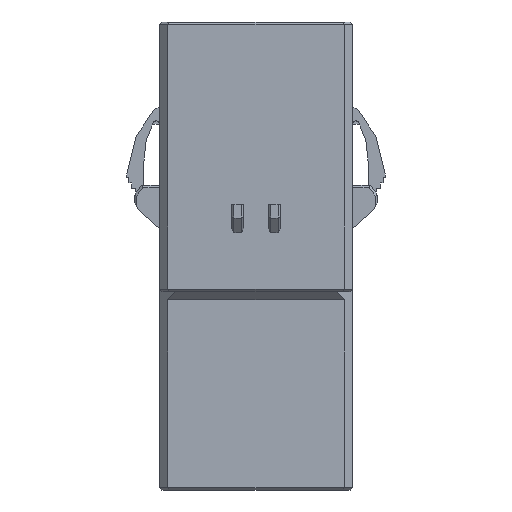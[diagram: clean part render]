
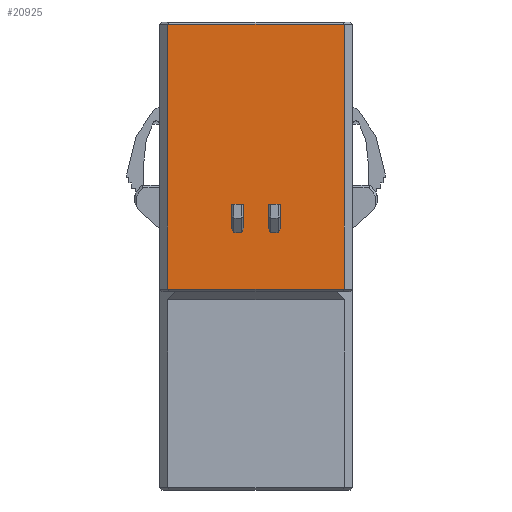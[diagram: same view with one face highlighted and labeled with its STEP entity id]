
A CAD part, front view. The second image highlights one B-rep face of the part: STEP entity #20925.
In plain terms, the highlighted planar face has unit normal (0, -1, 0).
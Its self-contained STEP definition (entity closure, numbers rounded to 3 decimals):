
#251 = VERTEX_POINT ( 'NONE', #8469 ) ;
#808 = PLANE ( 'NONE',  #29252 ) ;
#1296 = ORIENTED_EDGE ( 'NONE', *, *, #7343, .T. ) ;
#1436 = DIRECTION ( 'NONE',  ( -0.539, 0., -0.842 ) ) ;
#1515 = VECTOR ( 'NONE', #35412, 1000. ) ;
#2307 = DIRECTION ( 'NONE',  ( 1., 0., 0. ) ) ;
#2344 = VECTOR ( 'NONE', #32863, 1000. ) ;
#2346 = VERTEX_POINT ( 'NONE', #15642 ) ;
#2470 = CARTESIAN_POINT ( 'NONE',  ( -2.7, -8.75, -25.8 ) ) ;
#3080 = LINE ( 'NONE', #27881, #6177 ) ;
#3253 = CARTESIAN_POINT ( 'NONE',  ( -11.81, -8.75, -0.3 ) ) ;
#3319 = ORIENTED_EDGE ( 'NONE', *, *, #26035, .T. ) ;
#3447 = CARTESIAN_POINT ( 'NONE',  ( 3., -8.75, -22.3 ) ) ;
#3502 = DIRECTION ( 'NONE',  ( -1., 0., 0. ) ) ;
#3723 = CARTESIAN_POINT ( 'NONE',  ( -10.81, -8.75, -32. ) ) ;
#3821 = CARTESIAN_POINT ( 'NONE',  ( 10.81, -8.75, -32. ) ) ;
#4146 = CARTESIAN_POINT ( 'NONE',  ( -10.81, -8.75, -32.7 ) ) ;
#4344 = ORIENTED_EDGE ( 'NONE', *, *, #29403, .T. ) ;
#4378 = LINE ( 'NONE', #14769, #12740 ) ;
#4586 = VERTEX_POINT ( 'NONE', #30343 ) ;
#5008 = EDGE_CURVE ( 'NONE', #19779, #22646, #3080, .T. ) ;
#5034 = LINE ( 'NONE', #18397, #1515 ) ;
#5588 = VECTOR ( 'NONE', #21203, 1000. ) ;
#5621 = VERTEX_POINT ( 'NONE', #6732 ) ;
#6177 = VECTOR ( 'NONE', #30670, 1000. ) ;
#6259 = EDGE_CURVE ( 'NONE', #10961, #14250, #12717, .T. ) ;
#6732 = CARTESIAN_POINT ( 'NONE',  ( -1.8, -8.75, -25.8 ) ) ;
#7155 = VERTEX_POINT ( 'NONE', #31346 ) ;
#7343 = EDGE_CURVE ( 'NONE', #21123, #7595, #28828, .T. ) ;
#7405 = CARTESIAN_POINT ( 'NONE',  ( -3., -8.75, -22.3 ) ) ;
#7595 = VERTEX_POINT ( 'NONE', #35864 ) ;
#7865 = ORIENTED_EDGE ( 'NONE', *, *, #28690, .F. ) ;
#7888 = ORIENTED_EDGE ( 'NONE', *, *, #26256, .T. ) ;
#8007 = EDGE_CURVE ( 'NONE', #251, #7155, #20922, .T. ) ;
#8469 = CARTESIAN_POINT ( 'NONE',  ( -3., -8.75, -25.331 ) ) ;
#9399 = ORIENTED_EDGE ( 'NONE', *, *, #27073, .T. ) ;
#9413 = DIRECTION ( 'NONE',  ( 0., -1., 0. ) ) ;
#10086 = VERTEX_POINT ( 'NONE', #4146 ) ;
#10103 = CARTESIAN_POINT ( 'NONE',  ( 1.8, -8.75, -25.8 ) ) ;
#10122 = DIRECTION ( 'NONE',  ( 0., 0., 1. ) ) ;
#10178 = LINE ( 'NONE', #35268, #20700 ) ;
#10513 = ORIENTED_EDGE ( 'NONE', *, *, #16880, .T. ) ;
#10960 = VECTOR ( 'NONE', #32166, 1000. ) ;
#10961 = VERTEX_POINT ( 'NONE', #26406 ) ;
#11879 = EDGE_CURVE ( 'NONE', #28007, #15995, #20565, .T. ) ;
#12082 = CARTESIAN_POINT ( 'NONE',  ( 10.81, -8.75, -0.3 ) ) ;
#12187 = VECTOR ( 'NONE', #20883, 1000. ) ;
#12588 = CARTESIAN_POINT ( 'NONE',  ( 3., -8.75, -25.8 ) ) ;
#12717 = LINE ( 'NONE', #15018, #10960 ) ;
#12740 = VECTOR ( 'NONE', #31688, 1000. ) ;
#13201 = ORIENTED_EDGE ( 'NONE', *, *, #11879, .T. ) ;
#14250 = VERTEX_POINT ( 'NONE', #20172 ) ;
#14256 = EDGE_CURVE ( 'NONE', #22646, #2346, #17387, .T. ) ;
#14543 = CARTESIAN_POINT ( 'NONE',  ( -11.81, -8.75, -32. ) ) ;
#14769 = CARTESIAN_POINT ( 'NONE',  ( 1.5, -8.75, -32. ) ) ;
#14825 = DIRECTION ( 'NONE',  ( 0., 0., 1. ) ) ;
#15018 = CARTESIAN_POINT ( 'NONE',  ( -1.5, -8.75, -32. ) ) ;
#15030 = VERTEX_POINT ( 'NONE', #2470 ) ;
#15642 = CARTESIAN_POINT ( 'NONE',  ( 1.5, -8.75, -22.3 ) ) ;
#15947 = LINE ( 'NONE', #12588, #23855 ) ;
#15995 = VERTEX_POINT ( 'NONE', #33025 ) ;
#16558 = VECTOR ( 'NONE', #33683, 1000. ) ;
#16880 = EDGE_CURVE ( 'NONE', #15030, #251, #26019, .T. ) ;
#17387 = LINE ( 'NONE', #18846, #12187 ) ;
#17866 = LINE ( 'NONE', #35919, #34078 ) ;
#18236 = FACE_BOUND ( 'NONE', #33582, .T. ) ;
#18397 = CARTESIAN_POINT ( 'NONE',  ( 3., -8.75, -22.3 ) ) ;
#18846 = CARTESIAN_POINT ( 'NONE',  ( 3., -8.75, -22.3 ) ) ;
#19754 = VECTOR ( 'NONE', #2307, 1000. ) ;
#19779 = VERTEX_POINT ( 'NONE', #25207 ) ;
#20060 = LINE ( 'NONE', #22339, #16558 ) ;
#20119 = ORIENTED_EDGE ( 'NONE', *, *, #5008, .F. ) ;
#20172 = CARTESIAN_POINT ( 'NONE',  ( -1.5, -8.75, -22.3 ) ) ;
#20290 = ORIENTED_EDGE ( 'NONE', *, *, #6259, .F. ) ;
#20565 = LINE ( 'NONE', #3253, #29753 ) ;
#20700 = VECTOR ( 'NONE', #1436, 1000. ) ;
#20883 = DIRECTION ( 'NONE',  ( -1., 0., 0. ) ) ;
#20922 = LINE ( 'NONE', #7405, #28335 ) ;
#20923 = DIRECTION ( 'NONE',  ( -1., 0., 0. ) ) ;
#20925 = ADVANCED_FACE ( 'NONE', ( #26164, #18236, #23073 ), #808, .T. ) ;
#21123 = VERTEX_POINT ( 'NONE', #10103 ) ;
#21181 = VECTOR ( 'NONE', #28586, 1000. ) ;
#21203 = DIRECTION ( 'NONE',  ( -0.539, 0., 0.842 ) ) ;
#21329 = CARTESIAN_POINT ( 'NONE',  ( 1.8, -8.75, -25.8 ) ) ;
#21603 = DIRECTION ( 'NONE',  ( -0.539, 0., -0.842 ) ) ;
#21827 = CARTESIAN_POINT ( 'NONE',  ( 10.81, -8.75, -32.7 ) ) ;
#21831 = VERTEX_POINT ( 'NONE', #35496 ) ;
#21877 = CARTESIAN_POINT ( 'NONE',  ( -2.7, -8.75, -25.8 ) ) ;
#22339 = CARTESIAN_POINT ( 'NONE',  ( 3., -8.75, -25.8 ) ) ;
#22536 = ORIENTED_EDGE ( 'NONE', *, *, #24653, .T. ) ;
#22646 = VERTEX_POINT ( 'NONE', #3447 ) ;
#22770 = EDGE_CURVE ( 'NONE', #4586, #28007, #32212, .T. ) ;
#23073 = FACE_BOUND ( 'NONE', #34755, .T. ) ;
#23166 = DIRECTION ( 'NONE',  ( 0., 0., -1. ) ) ;
#23855 = VECTOR ( 'NONE', #20923, 1000. ) ;
#23923 = VECTOR ( 'NONE', #14825, 1000. ) ;
#24653 = EDGE_CURVE ( 'NONE', #15995, #10086, #28597, .T. ) ;
#25207 = CARTESIAN_POINT ( 'NONE',  ( 3., -8.75, -25.331 ) ) ;
#26019 = LINE ( 'NONE', #21877, #2344 ) ;
#26035 = EDGE_CURVE ( 'NONE', #10086, #4586, #27228, .T. ) ;
#26164 = FACE_OUTER_BOUND ( 'NONE', #27124, .T. ) ;
#26256 = EDGE_CURVE ( 'NONE', #7595, #2346, #4378, .T. ) ;
#26406 = CARTESIAN_POINT ( 'NONE',  ( -1.5, -8.75, -25.331 ) ) ;
#26944 = EDGE_CURVE ( 'NONE', #19779, #21831, #17866, .T. ) ;
#27073 = EDGE_CURVE ( 'NONE', #21831, #21123, #20060, .T. ) ;
#27124 = EDGE_LOOP ( 'NONE', ( #33976, #13201, #22536, #3319 ) ) ;
#27228 = LINE ( 'NONE', #21827, #19754 ) ;
#27397 = ORIENTED_EDGE ( 'NONE', *, *, #14256, .F. ) ;
#27881 = CARTESIAN_POINT ( 'NONE',  ( 3., -8.75, -22.3 ) ) ;
#28007 = VERTEX_POINT ( 'NONE', #12082 ) ;
#28335 = VECTOR ( 'NONE', #10122, 1000. ) ;
#28586 = DIRECTION ( 'NONE',  ( 0., 0., -1. ) ) ;
#28597 = LINE ( 'NONE', #3723, #21181 ) ;
#28690 = EDGE_CURVE ( 'NONE', #14250, #7155, #5034, .T. ) ;
#28828 = LINE ( 'NONE', #21329, #5588 ) ;
#29252 = AXIS2_PLACEMENT_3D ( 'NONE', #14543, #9413, #23166 ) ;
#29403 = EDGE_CURVE ( 'NONE', #5621, #15030, #15947, .T. ) ;
#29565 = ORIENTED_EDGE ( 'NONE', *, *, #8007, .T. ) ;
#29753 = VECTOR ( 'NONE', #3502, 1000. ) ;
#30343 = CARTESIAN_POINT ( 'NONE',  ( 10.81, -8.75, -32.7 ) ) ;
#30670 = DIRECTION ( 'NONE',  ( 0., 0., 1. ) ) ;
#30991 = ORIENTED_EDGE ( 'NONE', *, *, #35140, .T. ) ;
#31346 = CARTESIAN_POINT ( 'NONE',  ( -3., -8.75, -22.3 ) ) ;
#31618 = ORIENTED_EDGE ( 'NONE', *, *, #26944, .T. ) ;
#31688 = DIRECTION ( 'NONE',  ( 0., 0., 1. ) ) ;
#32166 = DIRECTION ( 'NONE',  ( 0., 0., 1. ) ) ;
#32212 = LINE ( 'NONE', #3821, #23923 ) ;
#32863 = DIRECTION ( 'NONE',  ( -0.539, 0., 0.842 ) ) ;
#33025 = CARTESIAN_POINT ( 'NONE',  ( -10.81, -8.75, -0.3 ) ) ;
#33582 = EDGE_LOOP ( 'NONE', ( #20119, #31618, #9399, #1296, #7888, #27397 ) ) ;
#33683 = DIRECTION ( 'NONE',  ( -1., 0., 0. ) ) ;
#33976 = ORIENTED_EDGE ( 'NONE', *, *, #22770, .T. ) ;
#34078 = VECTOR ( 'NONE', #21603, 1000. ) ;
#34755 = EDGE_LOOP ( 'NONE', ( #20290, #30991, #4344, #10513, #29565, #7865 ) ) ;
#35140 = EDGE_CURVE ( 'NONE', #10961, #5621, #10178, .T. ) ;
#35268 = CARTESIAN_POINT ( 'NONE',  ( -1.8, -8.75, -25.8 ) ) ;
#35412 = DIRECTION ( 'NONE',  ( -1., 0., 0. ) ) ;
#35496 = CARTESIAN_POINT ( 'NONE',  ( 2.7, -8.75, -25.8 ) ) ;
#35864 = CARTESIAN_POINT ( 'NONE',  ( 1.5, -8.75, -25.331 ) ) ;
#35919 = CARTESIAN_POINT ( 'NONE',  ( 3.812, -8.75, -24.062 ) ) ;
